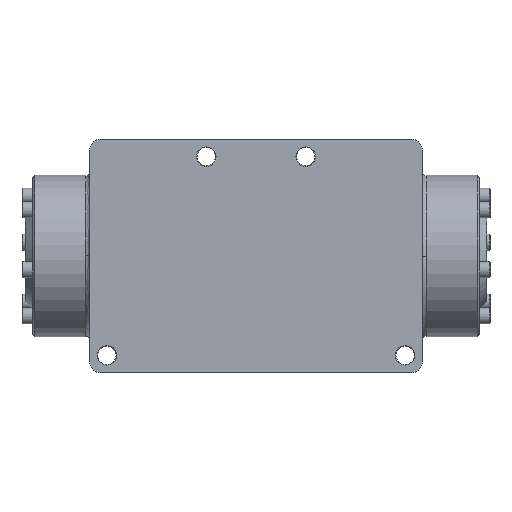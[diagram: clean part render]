
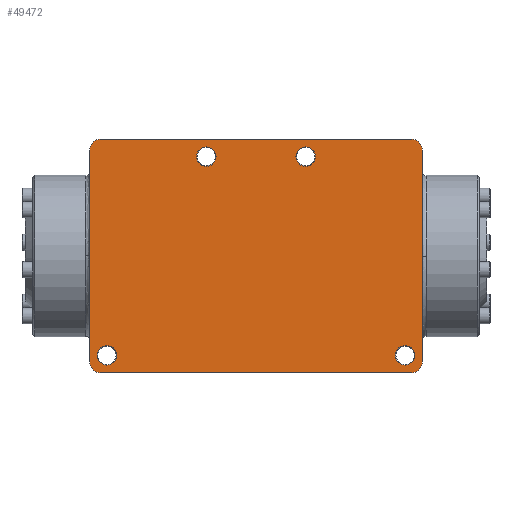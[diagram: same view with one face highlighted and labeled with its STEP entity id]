
A CAD part, front view. The second image highlights one B-rep face of the part: STEP entity #49472.
In plain terms, the highlighted planar face has unit normal (0, -1, 0).
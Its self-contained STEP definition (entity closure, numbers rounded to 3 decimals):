
#1524=FACE_BOUND('',#15518,.T.);
#1525=FACE_BOUND('',#15519,.T.);
#1526=FACE_BOUND('',#15520,.T.);
#1527=FACE_BOUND('',#15521,.T.);
#4067=LINE('',#82829,#7078);
#4068=LINE('',#82833,#7079);
#4069=LINE('',#82837,#7080);
#4070=LINE('',#82840,#7081);
#7078=VECTOR('',#64268,15.558);
#7079=VECTOR('',#64271,22.86);
#7080=VECTOR('',#64274,15.558);
#7081=VECTOR('',#64277,22.86);
#9407=PLANE('',#54225);
#11724=FACE_OUTER_BOUND('',#15517,.T.);
#15517=EDGE_LOOP('',(#38327,#38328,#38329,#38330,#38331,#38332,#38333,#38334));
#15518=EDGE_LOOP('',(#38335));
#15519=EDGE_LOOP('',(#38336));
#15520=EDGE_LOOP('',(#38337));
#15521=EDGE_LOOP('',(#38338));
#18815=CIRCLE('',#54193,0.714);
#18817=CIRCLE('',#54196,0.714);
#18819=CIRCLE('',#54199,0.714);
#18821=CIRCLE('',#54202,0.714);
#18830=CIRCLE('',#54226,0.794);
#18831=CIRCLE('',#54227,0.794);
#18832=CIRCLE('',#54228,0.794);
#18833=CIRCLE('',#54229,0.794);
#23095=VERTEX_POINT('',#82777);
#23097=VERTEX_POINT('',#82782);
#23099=VERTEX_POINT('',#82787);
#23101=VERTEX_POINT('',#82792);
#23110=VERTEX_POINT('',#82825);
#23111=VERTEX_POINT('',#82826);
#23112=VERTEX_POINT('',#82828);
#23113=VERTEX_POINT('',#82830);
#23114=VERTEX_POINT('',#82832);
#23115=VERTEX_POINT('',#82834);
#23116=VERTEX_POINT('',#82836);
#23117=VERTEX_POINT('',#82838);
#28556=EDGE_CURVE('',#23095,#23095,#18815,.T.);
#28558=EDGE_CURVE('',#23097,#23097,#18817,.T.);
#28560=EDGE_CURVE('',#23099,#23099,#18819,.T.);
#28562=EDGE_CURVE('',#23101,#23101,#18821,.T.);
#28571=EDGE_CURVE('',#23110,#23111,#18830,.T.);
#28572=EDGE_CURVE('',#23111,#23112,#4067,.T.);
#28573=EDGE_CURVE('',#23112,#23113,#18831,.T.);
#28574=EDGE_CURVE('',#23113,#23114,#4068,.T.);
#28575=EDGE_CURVE('',#23114,#23115,#18832,.T.);
#28576=EDGE_CURVE('',#23115,#23116,#4069,.T.);
#28577=EDGE_CURVE('',#23116,#23117,#18833,.T.);
#28578=EDGE_CURVE('',#23117,#23110,#4070,.T.);
#38327=ORIENTED_EDGE('',*,*,#28571,.T.);
#38328=ORIENTED_EDGE('',*,*,#28572,.T.);
#38329=ORIENTED_EDGE('',*,*,#28573,.T.);
#38330=ORIENTED_EDGE('',*,*,#28574,.T.);
#38331=ORIENTED_EDGE('',*,*,#28575,.T.);
#38332=ORIENTED_EDGE('',*,*,#28576,.T.);
#38333=ORIENTED_EDGE('',*,*,#28577,.T.);
#38334=ORIENTED_EDGE('',*,*,#28578,.T.);
#38335=ORIENTED_EDGE('',*,*,#28556,.T.);
#38336=ORIENTED_EDGE('',*,*,#28558,.T.);
#38337=ORIENTED_EDGE('',*,*,#28560,.T.);
#38338=ORIENTED_EDGE('',*,*,#28562,.T.);
#49472=ADVANCED_FACE('',(#11724,#1524,#1525,#1526,#1527),#9407,.T.);
#54193=AXIS2_PLACEMENT_3D('',#82778,#64200,#64201);
#54196=AXIS2_PLACEMENT_3D('',#82783,#64206,#64207);
#54199=AXIS2_PLACEMENT_3D('',#82788,#64212,#64213);
#54202=AXIS2_PLACEMENT_3D('',#82793,#64218,#64219);
#54225=AXIS2_PLACEMENT_3D('',#82824,#64264,#64265);
#54226=AXIS2_PLACEMENT_3D('',#82827,#64266,#64267);
#54227=AXIS2_PLACEMENT_3D('',#82831,#64269,#64270);
#54228=AXIS2_PLACEMENT_3D('',#82835,#64272,#64273);
#54229=AXIS2_PLACEMENT_3D('',#82839,#64275,#64276);
#64200=DIRECTION('center_axis',(0.,1.,0.));
#64201=DIRECTION('ref_axis',(1.,0.,0.));
#64206=DIRECTION('center_axis',(0.,1.,0.));
#64207=DIRECTION('ref_axis',(1.,0.,0.));
#64212=DIRECTION('center_axis',(0.,1.,0.));
#64213=DIRECTION('ref_axis',(1.,0.,0.));
#64218=DIRECTION('center_axis',(0.,1.,0.));
#64219=DIRECTION('ref_axis',(1.,0.,0.));
#64264=DIRECTION('center_axis',(0.,-1.,0.));
#64265=DIRECTION('ref_axis',(1.,0.,0.));
#64266=DIRECTION('center_axis',(0.,-1.,0.));
#64267=DIRECTION('ref_axis',(0.707,0.,-0.707));
#64268=DIRECTION('',(0.,0.,1.));
#64269=DIRECTION('center_axis',(0.,-1.,0.));
#64270=DIRECTION('ref_axis',(0.707,0.,0.707));
#64271=DIRECTION('',(-1.,0.,0.));
#64272=DIRECTION('center_axis',(0.,-1.,0.));
#64273=DIRECTION('ref_axis',(-0.707,0.,0.707));
#64274=DIRECTION('',(0.,0.,-1.));
#64275=DIRECTION('center_axis',(0.,-1.,0.));
#64276=DIRECTION('ref_axis',(-0.707,0.,-0.707));
#64277=DIRECTION('',(1.,0.,0.));
#82777=CARTESIAN_POINT('',(4.364,-6.35,7.303));
#82778=CARTESIAN_POINT('Origin',(3.65,-6.35,7.303));
#82782=CARTESIAN_POINT('',(-10.238,-6.35,-7.303));
#82783=CARTESIAN_POINT('Origin',(-10.952,-6.35,-7.303));
#82787=CARTESIAN_POINT('',(11.667,-6.35,-7.303));
#82788=CARTESIAN_POINT('Origin',(10.952,-6.35,-7.303));
#82792=CARTESIAN_POINT('',(-2.936,-6.35,7.303));
#82793=CARTESIAN_POINT('Origin',(-3.65,-6.35,7.303));
#82824=CARTESIAN_POINT('Origin',(-12.51,-6.35,0.));
#82825=CARTESIAN_POINT('',(11.43,-6.35,-8.572));
#82826=CARTESIAN_POINT('',(12.224,-6.35,-7.779));
#82827=CARTESIAN_POINT('Origin',(11.43,-6.35,-7.779));
#82828=CARTESIAN_POINT('',(12.224,-6.35,7.779));
#82829=CARTESIAN_POINT('',(12.224,-6.35,-4.286));
#82830=CARTESIAN_POINT('',(11.43,-6.35,8.573));
#82831=CARTESIAN_POINT('Origin',(11.43,-6.35,7.779));
#82832=CARTESIAN_POINT('',(-11.43,-6.35,8.573));
#82833=CARTESIAN_POINT('',(-0.143,-6.35,8.573));
#82834=CARTESIAN_POINT('',(-12.224,-6.35,7.779));
#82835=CARTESIAN_POINT('Origin',(-11.43,-6.35,7.779));
#82836=CARTESIAN_POINT('',(-12.224,-6.35,-7.779));
#82837=CARTESIAN_POINT('',(-12.224,-6.35,4.286));
#82838=CARTESIAN_POINT('',(-11.43,-6.35,-8.573));
#82839=CARTESIAN_POINT('Origin',(-11.43,-6.35,-7.779));
#82840=CARTESIAN_POINT('',(-12.367,-6.35,-8.573));
